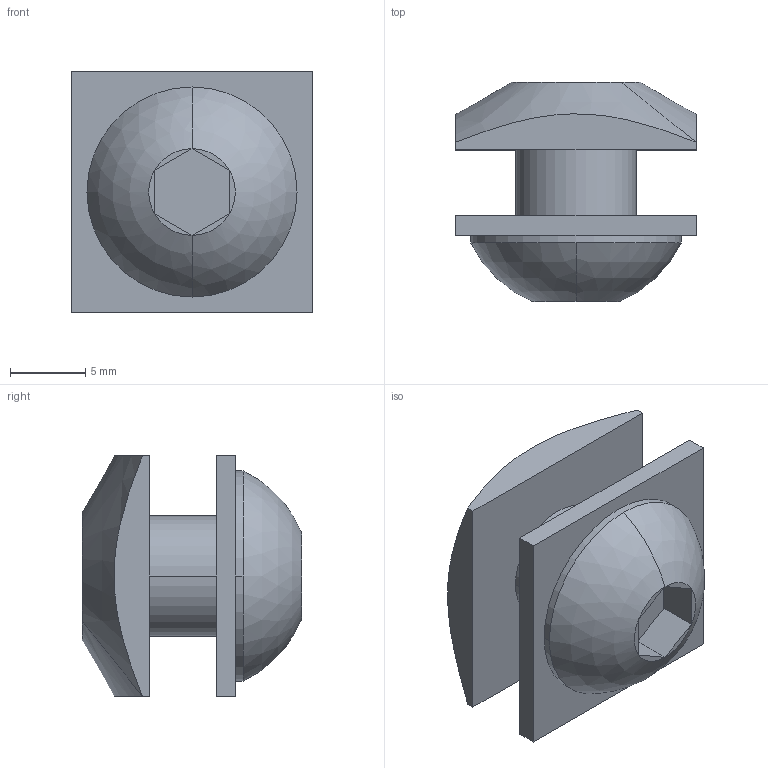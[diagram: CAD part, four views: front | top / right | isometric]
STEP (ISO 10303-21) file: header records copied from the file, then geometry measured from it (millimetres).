
FILE_DESCRIPTION((''),'2;1');
FILE_NAME('KL002_ASM','2002-12-27T',('Lipro doo'),('Lipro d.o.o.'),'PRO/ENGINEER BY PARAMETRIC TECHNOLOGY CORPORATION, 2001150','PRO/ENGINEER BY PARAMETRIC TECHNOLOGY CORPORATION, 2001150','');
FILE_SCHEMA(('CONFIG_CONTROL_DESIGN'));
Length unit declared in the file: millimetre
Products named in the file (4): VTBEI0810; ROQ0830; DAQ0830; KL002_ASM
Assembly tree (3 placements, depth 2):
  KL002_ASM
    VTBEI0810
    ROQ0830
    DAQ0830
Bounding box: 16 x 14.6 x 16 mm (x, y, z)
Volume: 1828.8 mm3; surface area: 2181.2 mm2
Topology: 3 solids, 5 shells, 47 faces, 100 edges, 60 vertices
Faces by surface type: plane 27, cylinder 12, cone 6, sphere 2
Entity records: 1454 total; most frequent: CARTESIAN_POINT 282, DIRECTION 252, ORIENTED_EDGE 192, EDGE_CURVE 100, AXIS2_PLACEMENT_3D 98, VERTEX_POINT 60, VECTOR 56, LINE 56
